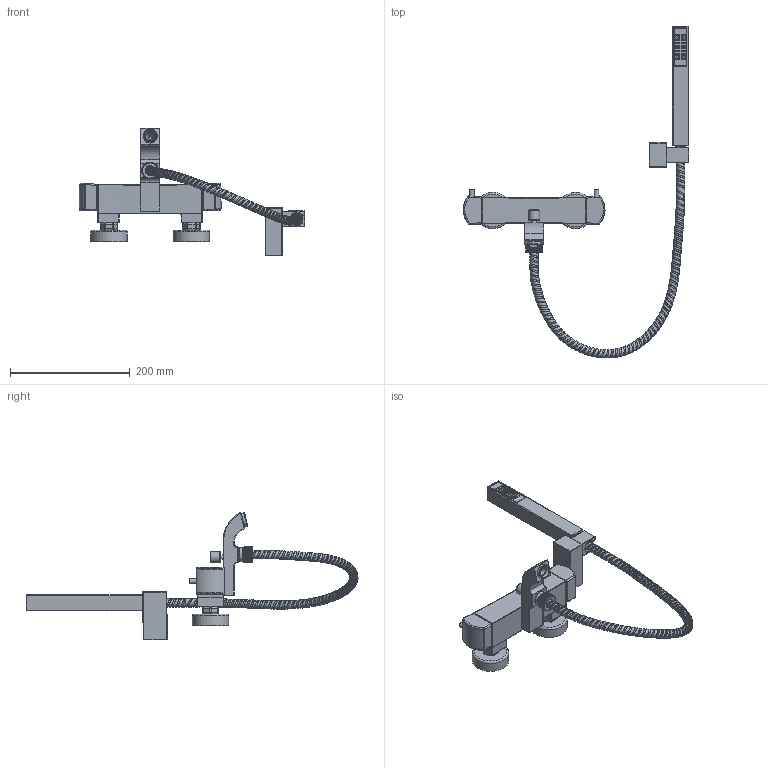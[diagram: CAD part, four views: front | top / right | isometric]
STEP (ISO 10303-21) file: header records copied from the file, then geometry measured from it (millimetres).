
FILE_DESCRIPTION(('STEP AP242'), '1');
FILE_NAME('89CR105TH', '', ('UNSPECIFIED'), ('UNSPECIFIED'), 'ASCON STEP Converter 1.6', 'ASCON Math Kernel', '');
FILE_SCHEMA(('AP242_MANAGED_MODEL_BASED_3D_ENGINEERING_MIM_LF { 1 0 10303 442 1 1 4 }'));
Length unit declared in the file: millimetre
Products named in the file (6): ?9CR105TH; Êîïèÿ Øëàíã^89CR105TH; Äóø; Êîïèÿ Ãàéêà^89CR105TH; 扰鳧
Assembly tree (5 placements, depth 2):
  ?9CR105TH
    Êîïèÿ Øëàíã^89CR105TH
    Äóø
    Êîïèÿ Ãàéêà^89CR105TH
    扰鳧
    (unnamed)
Bounding box: 376.66 x 554.4 x 212.99 mm (x, y, z)
Volume: 1489062.5 mm3; surface area: 219691 mm2
Topology: 18 solids, 19 shells, 1109 faces, 2602 edges, 1513 vertices
Faces by surface type: cylinder 416, plane 397, bspline 158, sphere 78, torus 47, cone 13
Full cylindrical faces by diameter (mm): 4 x1, 7.708 x2, 7.908 x2, 8 x2, 8.6 x1, 11.543 x1, 12 x6, 15 x1, 16.631 x1, 18.171 x1, 23.49 x1, 23.516 x1, 60.805 x2
Entity records: 110227 total; most frequent: CARTESIAN_POINT 78445, ORIENTED_EDGE 4966, DIRECTION 4123, EDGE_CURVE 2483, AXIS2_PLACEMENT_3D 1551, VERTEX_POINT 1512, EDGE_LOOP 1215, FACE_BOUND 1170
